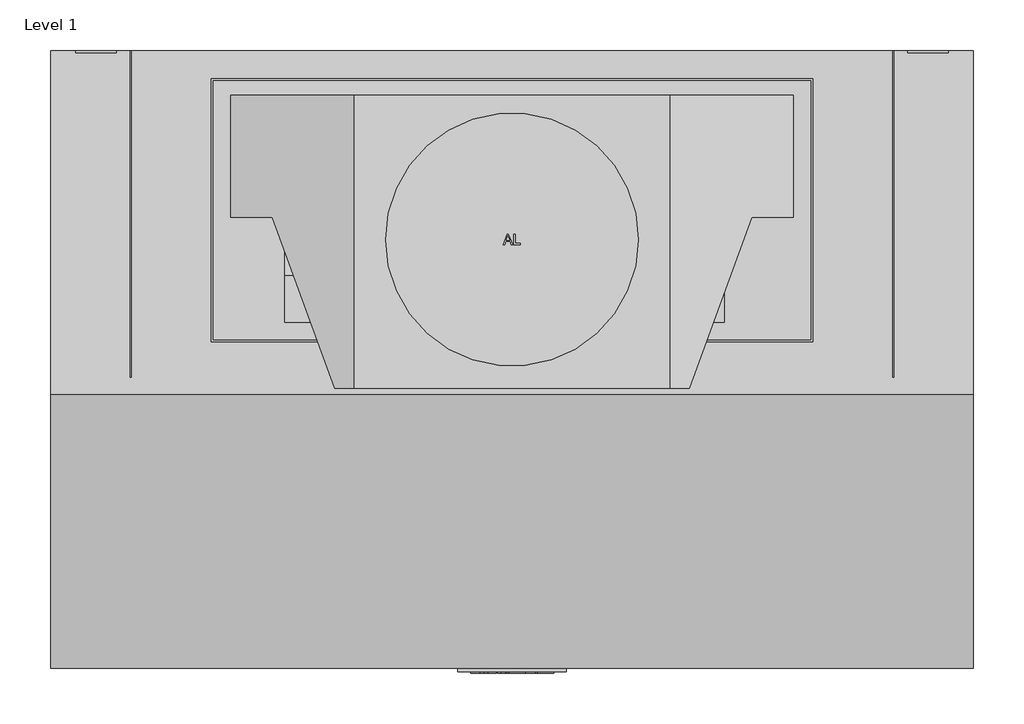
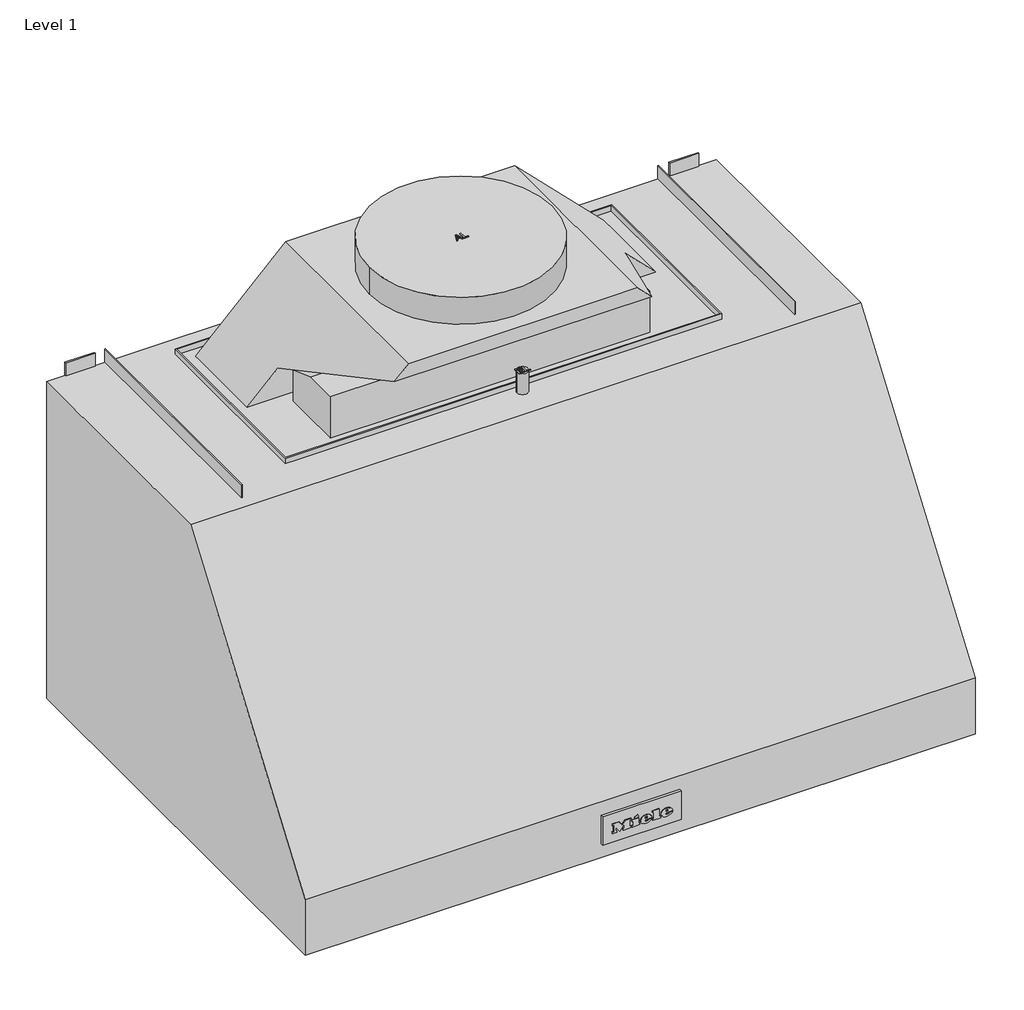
# One storey: 1 proxy.
"""IFC4 building model written with IfcOpenShell, lengths in millimetres."""

from ifc_helpers import new_model, si_unit, origin, place, context, project, spatial, transform, mapped, element, save
from components import specialty_equipment_fada4b7b

model = new_model("IFC4")

# Units and contexts
model_context = context("Model", 3, world=origin())
ifc_project = project(units=[si_unit("LENGTHUNIT", "METRE", prefix="MILLI")], contexts=[model_context])

# Site, building, storey
site = spatial("IfcSite", under=ifc_project)
building = spatial("IfcBuilding", under=site)
storey = spatial("IfcBuildingStorey", under=building, Name="Level 1", Elevation=0.0)

# Proxy
placement = place(None, origin())
specialty_equipment_shape = specialty_equipment_fada4b7b(model_context)
element("IfcBuildingElementProxy", 1, Name="11898170_USA_DAR1230-3_EDST : 28123051_USA_11898170_DAR1230-3_EDST", ObjectType="11898170_USA_DAR1230-3_EDST : 28123051_USA_11898170_DAR1230-3_EDST", at=placement, inside=storey, context=model_context, shape_type="MappedRepresentation", body=[
    mapped(specialty_equipment_shape, transform((0.0, 0.0, 0.0), x_axis=(1.0, 0.0, 0.0), y_axis=(0.0, 1.0, 0.0), z_axis=(0.0, 0.0, 1.0))),
])

save(model, "model.ifc")
